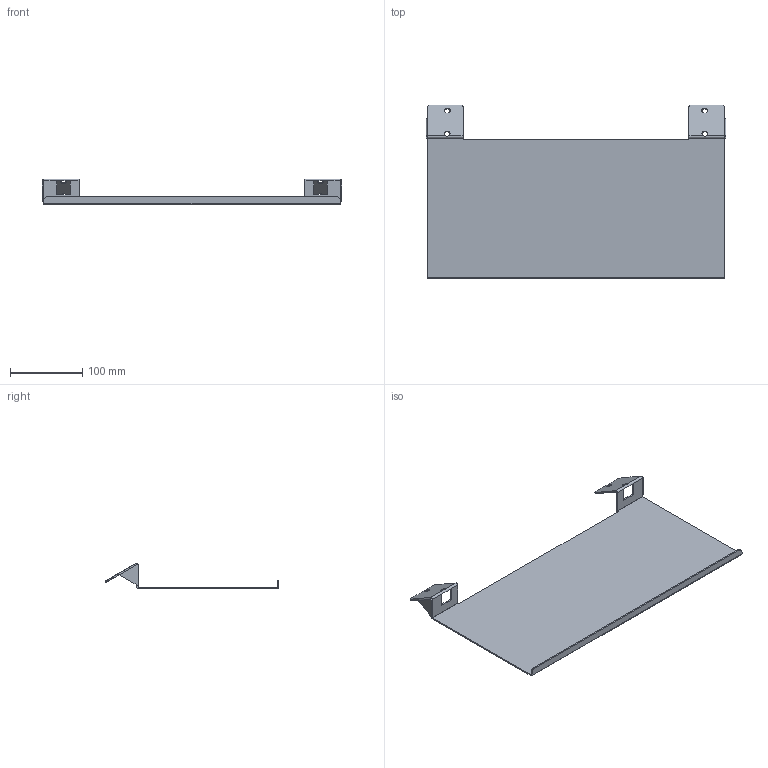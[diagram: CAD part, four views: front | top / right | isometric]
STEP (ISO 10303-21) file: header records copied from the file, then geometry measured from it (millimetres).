
FILE_DESCRIPTION (( 'STEP AP214' ), '1' );
FILE_NAME ('KB-TRAY.STEP', '2017-07-14T19:04:11', ( '' ), ( '' ), 'SwSTEP 2.0', 'SolidWorks 2017', '' );
FILE_SCHEMA (( 'AUTOMOTIVE_DESIGN' ));
Length unit declared in the file: inch
Products named in the file (1): KB-TRAY
Bounding box: 414.51 x 240.3 x 35.12 mm (x, y, z)
Volume: 172941.2 mm3; surface area: 185870.4 mm2
Topology: 1 solids, 1 shells, 96 faces, 238 edges, 136 vertices
Faces by surface type: plane 64, cylinder 28, bspline 4
Entity records: 3018 total; most frequent: CARTESIAN_POINT 711, ORIENTED_EDGE 476, DIRECTION 464, EDGE_CURVE 238, VECTOR 174, LINE 174, AXIS2_PLACEMENT_3D 145, VERTEX_POINT 136
